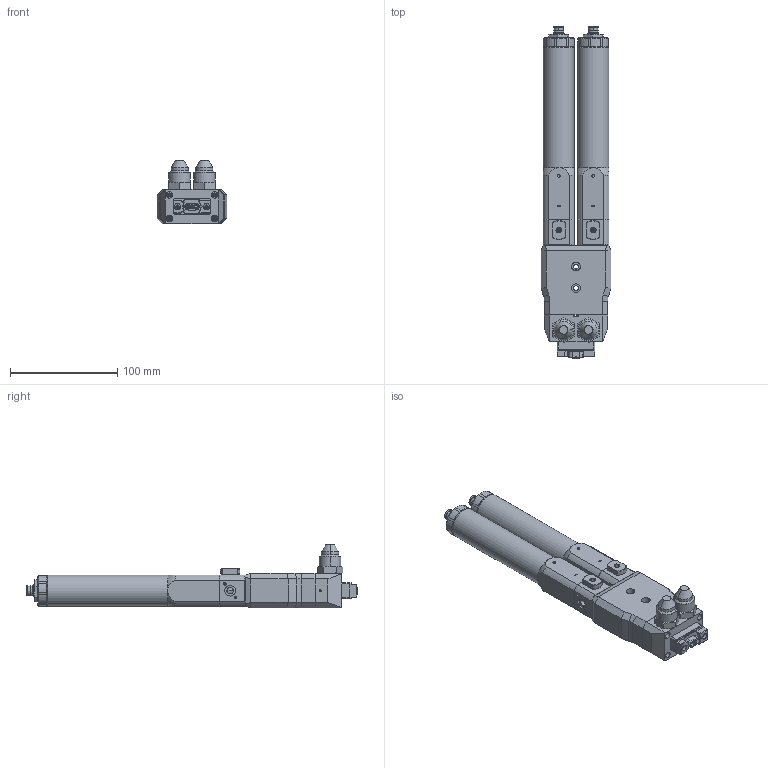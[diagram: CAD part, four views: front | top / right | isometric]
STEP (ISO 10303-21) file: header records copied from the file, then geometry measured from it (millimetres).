
FILE_DESCRIPTION (( 'STEP AP214' ), '1' );
FILE_NAME ('PDPM-500BA.STEP', '2024-10-11T12:13:48', ( '' ), ( '' ), 'SwSTEP 2.0', 'SolidWorks 2024', '' );
FILE_SCHEMA (( 'AUTOMOTIVE_DESIGN' ));
Length unit declared in the file: millimetre
Products named in the file (1): PDPM-500BA
Bounding box: 65 x 309 x 59.3 mm (x, y, z)
Volume: 466454 mm3; surface area: 104815.3 mm2
Topology: 13 solids, 13 shells, 1196 faces, 2941 edges, 1852 vertices
Faces by surface type: plane 491, cylinder 454, cone 219, bspline 14, torus 12, sphere 6
Full cylindrical faces by diameter (mm): 29 x2
Entity records: 47701 total; most frequent: CARTESIAN_POINT 20022, ORIENTED_EDGE 5800, DIRECTION 5620, EDGE_CURVE 2900, AXIS2_PLACEMENT_3D 2183, VERTEX_POINT 1851, EDGE_LOOP 1357, LINE 1254
